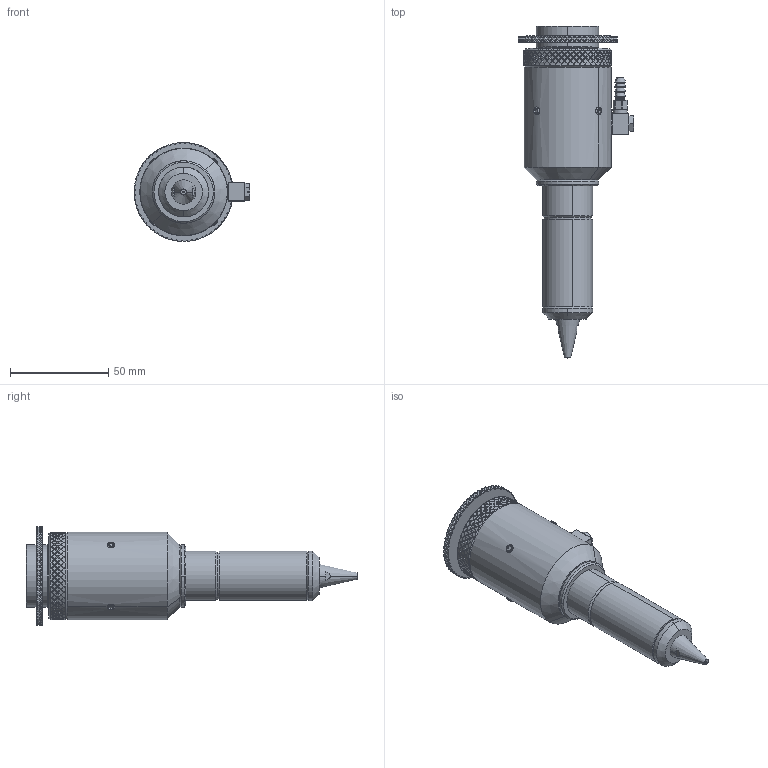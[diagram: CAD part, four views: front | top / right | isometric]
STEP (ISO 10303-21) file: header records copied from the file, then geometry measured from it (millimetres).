
FILE_DESCRIPTION (( 'STEP AP214' ), '1' );
FILE_NAME ('PHA-25-25-127-LB.STEP', '2016-10-11T17:55:12', ( '' ), ( '' ), 'SwSTEP 2.0', 'SolidWorks 2016', '' );
FILE_SCHEMA (( 'AUTOMOTIVE_DESIGN' ));
Length unit declared in the file: inch
Products named in the file (1): PHA-25-25-127-LB
Bounding box: 58.8 x 168.78 x 50.29 mm (x, y, z)
Volume: 138802.1 mm3; surface area: 25366 mm2
Topology: 1 solids, 1 shells, 2811 faces, 6208 edges, 3406 vertices
Faces by surface type: plane 2116, cylinder 598, cone 40, torus 37, sphere 20
Entity records: 74124 total; most frequent: CARTESIAN_POINT 19501, ORIENTED_EDGE 12376, DIRECTION 10170, EDGE_CURVE 6188, VERTEX_POINT 3406, AXIS2_PLACEMENT_3D 3397, VECTOR 3376, LINE 3376
